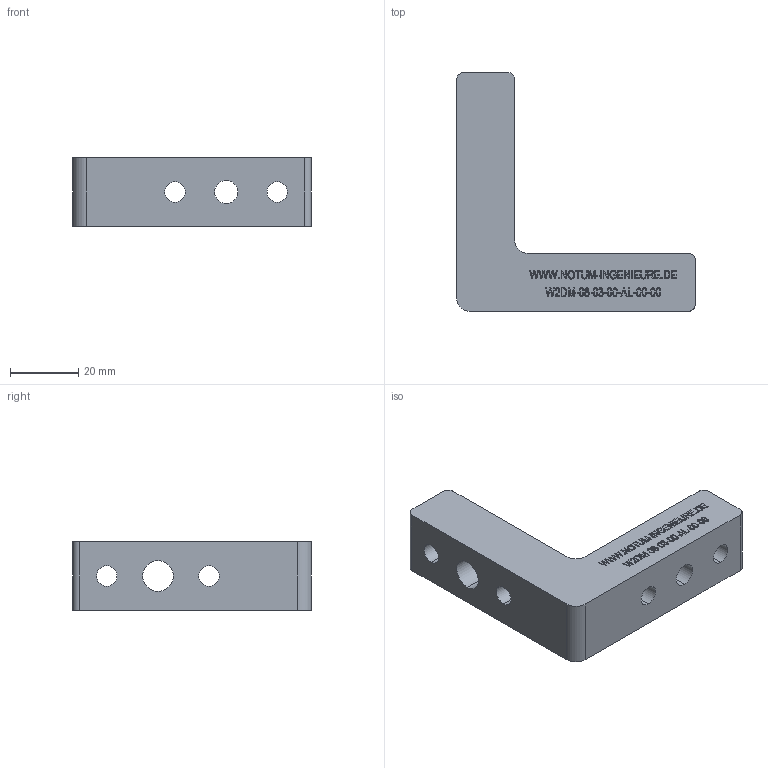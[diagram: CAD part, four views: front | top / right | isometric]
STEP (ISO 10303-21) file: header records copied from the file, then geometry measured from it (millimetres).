
FILE_DESCRIPTION (( 'STEP AP214' ), '1' );
FILE_NAME ('W2DM-08-03-00-AL-00-00__Notum.STEP', '2018-03-29T11:16:06', ( '' ), ( '' ), 'SwSTEP 2.0', 'SolidWorks 2015', '' );
FILE_SCHEMA (( 'AUTOMOTIVE_DESIGN' ));
Length unit declared in the file: millimetre
Products named in the file (1): W2DM-08-03-00-AL-00-00__Notum
Bounding box: 70 x 70 x 20 mm (x, y, z)
Volume: 38099.4 mm3; surface area: 11578.9 mm2
Topology: 1 solids, 1 shells, 547 faces, 1455 edges, 970 vertices
Faces by surface type: plane 352, bspline 177, cylinder 18
Entity records: 31897 total; most frequent: CARTESIAN_POINT 13710, ORIENTED_EDGE 2910, DIRECTION 1879, EDGE_CURVE 1455, LINE 1065, VECTOR 1065, VERTEX_POINT 970, EDGE_LOOP 619
